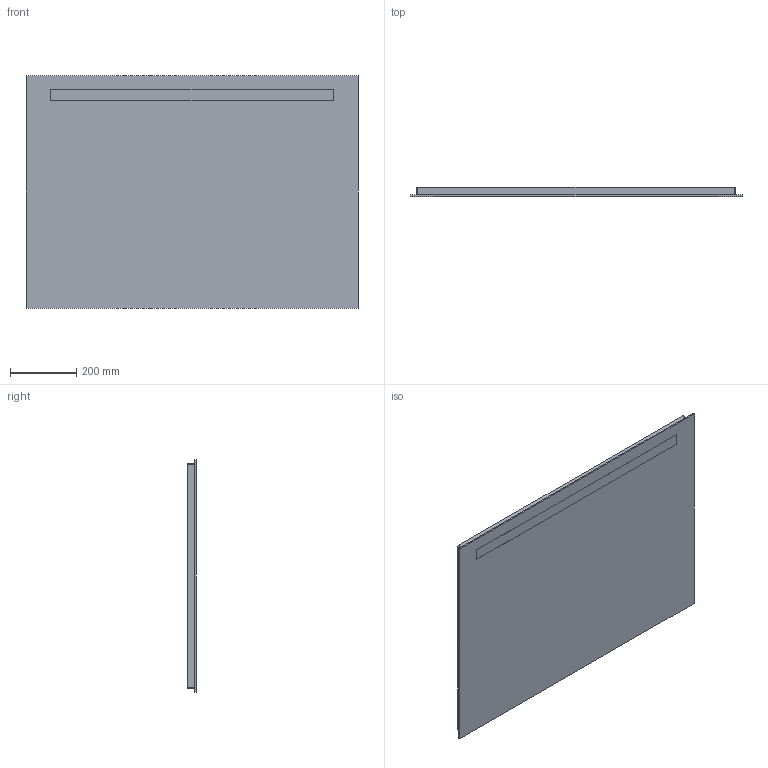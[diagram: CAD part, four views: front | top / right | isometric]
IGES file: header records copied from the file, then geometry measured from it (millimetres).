
Global section: file name: 502809; native system: Autodesk Inventor 2021; preprocessor: unknown; author: JANAN; date: 20221202.151327; units: millimetre
Bounding box: 1000 x 26 x 700 mm (x, y, z)
Volume: 17156443.9 mm3; surface area: 2792413.9 mm2
Topology: 2 solids, 2 shells, 29 faces, 68 edges, 48 vertices
Faces by surface type: bspline 29
